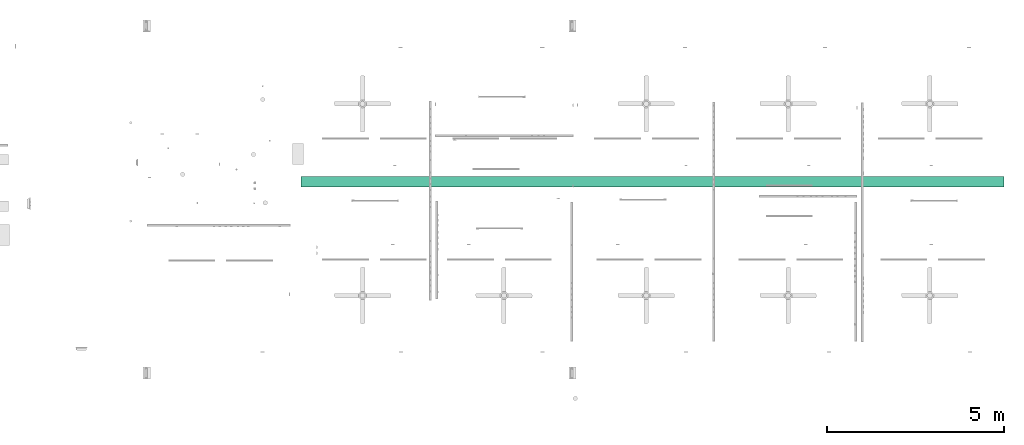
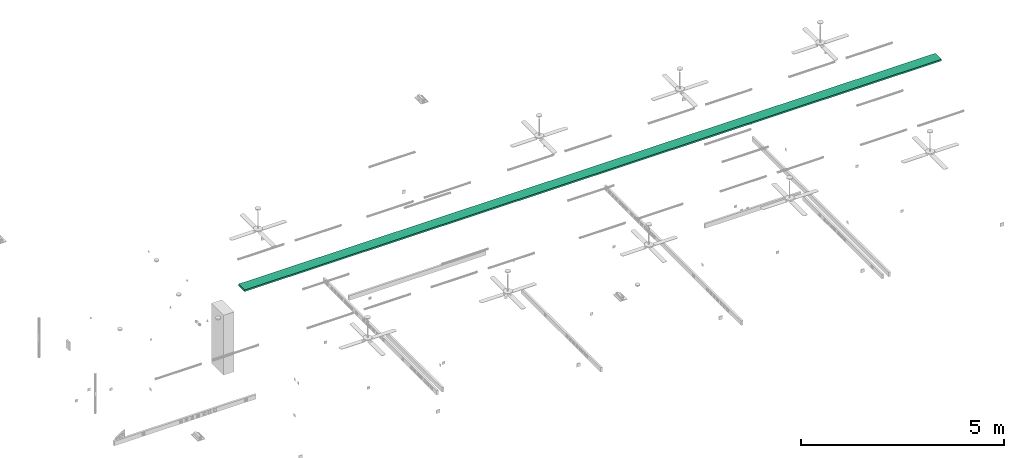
# One storey, part 14 of 166: 1 flow segment.
"""IFC2X3 building model written with IfcOpenShell, lengths in metres."""

from ifc_helpers import new_model, entity, si_unit, converted_unit, derived_unit, direction, frame, origin, origin_2d_with_axis, place, context, subcontext, project, spatial, rectangle, extrude, type_object, element, save


model = new_model("IFC2X3")

# Units and contexts
model_context = context("Model", 3, precision=1e-05, world=origin(), true_north=direction((6.12303176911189e-17, 1.0)))
body_context = subcontext(model_context, "Body", "Model", "MODEL_VIEW")
ifc_project = project(units=[si_unit("LENGTHUNIT", "METRE"), si_unit("AREAUNIT", "SQUARE_METRE"), si_unit("VOLUMEUNIT", "CUBIC_METRE"), converted_unit("PLANEANGLEUNIT", "DEGREE", entity("IfcRatioMeasure", 0.0174532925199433), si_unit("PLANEANGLEUNIT", "RADIAN"), dimensions=[0, 0, 0, 0, 0, 0, 0]), si_unit("MASSUNIT", "GRAM", prefix="KILO"), derived_unit("MASSDENSITYUNIT", [(si_unit("MASSUNIT", "GRAM", prefix="KILO"), 1), (si_unit("LENGTHUNIT", "METRE"), -3)]), si_unit("TIMEUNIT", "SECOND"), si_unit("FREQUENCYUNIT", "HERTZ"), si_unit("THERMODYNAMICTEMPERATUREUNIT", "DEGREE_CELSIUS"), derived_unit("THERMALTRANSMITTANCEUNIT", [(si_unit("MASSUNIT", "GRAM", prefix="KILO"), 1), (si_unit("THERMODYNAMICTEMPERATUREUNIT", "KELVIN"), -1), (si_unit("TIMEUNIT", "SECOND"), -3)]), derived_unit("VOLUMETRICFLOWRATEUNIT", [(si_unit("LENGTHUNIT", "METRE"), 3), (si_unit("TIMEUNIT", "SECOND"), -1)]), si_unit("ELECTRICCURRENTUNIT", "AMPERE"), si_unit("ELECTRICVOLTAGEUNIT", "VOLT"), si_unit("POWERUNIT", "WATT"), si_unit("FORCEUNIT", "NEWTON"), si_unit("ILLUMINANCEUNIT", "LUX"), si_unit("LUMINOUSFLUXUNIT", "LUMEN"), si_unit("LUMINOUSINTENSITYUNIT", "CANDELA"), derived_unit("USERDEFINED", [(si_unit("MASSUNIT", "GRAM", prefix="KILO"), -1), (si_unit("LENGTHUNIT", "METRE"), -2), (si_unit("TIMEUNIT", "SECOND"), 3), (si_unit("LUMINOUSFLUXUNIT", "LUMEN"), 1)]), derived_unit("LINEARVELOCITYUNIT", [(si_unit("LENGTHUNIT", "METRE"), 1), (si_unit("TIMEUNIT", "SECOND"), -1)]), si_unit("PRESSUREUNIT", "PASCAL"), derived_unit("USERDEFINED", [(si_unit("LENGTHUNIT", "METRE"), -2), (si_unit("MASSUNIT", "GRAM", prefix="KILO"), 1), (si_unit("TIMEUNIT", "SECOND"), -2)])], contexts=[model_context])

# Site, building, storey
site_placement = place(None, origin())
site = spatial("IfcSite", under=ifc_project, at=site_placement, Name="Default", CompositionType="ELEMENT")
building_placement = place(site_placement, origin())
building = spatial("IfcBuilding", under=site, at=building_placement, CompositionType="ELEMENT")
storey_placement = place(building_placement, frame((0.0, 0.0, 4.27)))
storey = spatial("IfcBuildingStorey", under=building, at=storey_placement, Name="01", CompositionType="ELEMENT", Elevation=4.27)

# Flow segment
cable_carrier_segment_type = type_object("IfcCableCarrierSegmentType", Name="Cable Tray with Fittings:Chemins de câbles en treillis_Chemins de câbles en treillis", PredefinedType="NOTDEFINED")
flow_segment_placement = place(storey_placement, origin())
element("IfcFlowSegment", 1, at=flow_segment_placement, inside=storey, type_object=cable_carrier_segment_type, Name="Cable Tray with Fittings:Chemins de câbles en treillis_Chemins de câbles en treillis", ObjectType="Cable Tray with Fittings:Chemins de câbles en treillis_Chemins de câbles en treillis", context=body_context, shape_type="SweptSolid", body=[
    extrude(rectangle(XDim=0.300000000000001, YDim=19.8084730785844, at=origin_2d_with_axis()), frame((59.6662012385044, -188.700051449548, 2.80999999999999), z_axis=(0.0, 0.0, 1.0), x_axis=(0.0, -1.0, 0.0)), (0.0, 0.0, 1.0), 0.0499999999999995),
])

save(model, "model.ifc")
